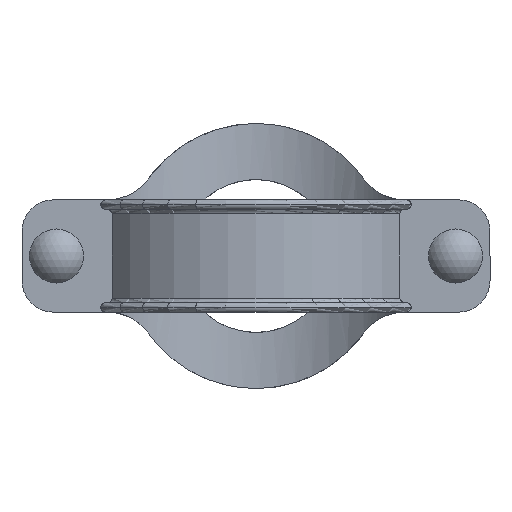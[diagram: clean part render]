
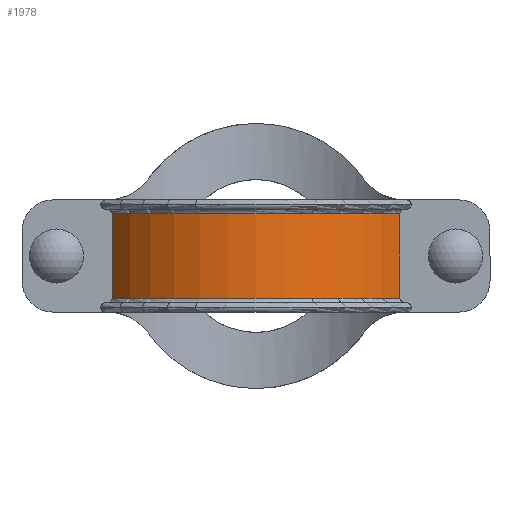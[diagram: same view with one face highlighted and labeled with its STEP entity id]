
A CAD part, front view. The second image highlights one B-rep face of the part: STEP entity #1978.
In plain terms, the highlighted cylindrical face has radius 87.376 mm (diameter 174.752 mm), a partial arc.
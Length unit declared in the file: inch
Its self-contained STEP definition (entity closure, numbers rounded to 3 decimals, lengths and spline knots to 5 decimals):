
#195=FACE_OUTER_BOUND('',#308,.T.);
#308=EDGE_LOOP('',(#1395,#1396,#1397,#1398));
#449=LINE('',#2969,#601);
#451=LINE('',#2990,#603);
#601=VECTOR('',#2348,1.69);
#603=VECTOR('',#2362,1.69);
#735=CIRCLE('',#2092,3.44);
#739=CIRCLE('',#2099,3.44);
#824=VERTEX_POINT('',#2873);
#826=VERTEX_POINT('',#2886);
#838=VERTEX_POINT('',#2958);
#840=VERTEX_POINT('',#2975);
#1023=EDGE_CURVE('',#826,#824,#735,.T.);
#1037=EDGE_CURVE('',#838,#826,#449,.T.);
#1041=EDGE_CURVE('',#840,#838,#739,.T.);
#1043=EDGE_CURVE('',#824,#840,#451,.T.);
#1395=ORIENTED_EDGE('',*,*,#1023,.F.);
#1396=ORIENTED_EDGE('',*,*,#1037,.F.);
#1397=ORIENTED_EDGE('',*,*,#1041,.F.);
#1398=ORIENTED_EDGE('',*,*,#1043,.F.);
#1811=CYLINDRICAL_SURFACE('',#2119,3.44);
#1978=ADVANCED_FACE('',(#195),#1811,.T.);
#2092=AXIS2_PLACEMENT_3D('',#2897,#2334,#2335);
#2099=AXIS2_PLACEMENT_3D('',#2987,#2356,#2357);
#2119=AXIS2_PLACEMENT_3D('',#3067,#2405,#2406);
#2334=DIRECTION('center_axis',(0.,0.,-1.));
#2335=DIRECTION('ref_axis',(0.,-1.,0.));
#2348=DIRECTION('',(0.,0.,-1.));
#2356=DIRECTION('center_axis',(0.,0.,1.));
#2357=DIRECTION('ref_axis',(0.,-1.,0.));
#2362=DIRECTION('',(0.,0.,1.));
#2405=DIRECTION('center_axis',(0.,0.,-1.));
#2406=DIRECTION('ref_axis',(1.,0.,0.));
#2873=CARTESIAN_POINT('',(-2.88409,-1.875,-0.845));
#2886=CARTESIAN_POINT('',(2.88409,-1.875,-0.845));
#2897=CARTESIAN_POINT('Origin',(0.,0.,-0.845));
#2958=CARTESIAN_POINT('',(2.88409,-1.875,0.845));
#2969=CARTESIAN_POINT('',(2.88409,-1.875,0.));
#2975=CARTESIAN_POINT('',(-2.88409,-1.875,0.845));
#2987=CARTESIAN_POINT('Origin',(0.,0.,0.845));
#2990=CARTESIAN_POINT('',(-2.88409,-1.875,0.));
#3067=CARTESIAN_POINT('Origin',(0.,0.,0.));
